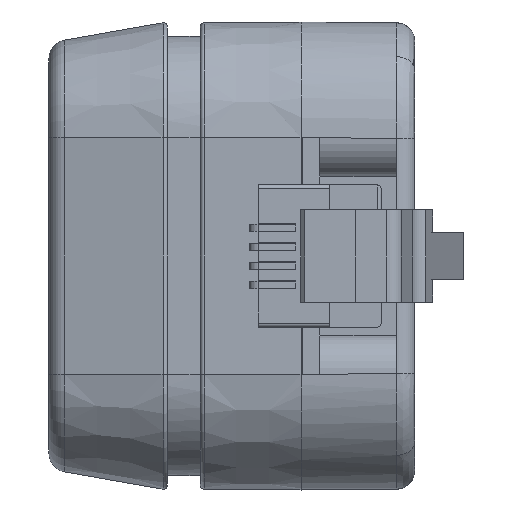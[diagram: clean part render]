
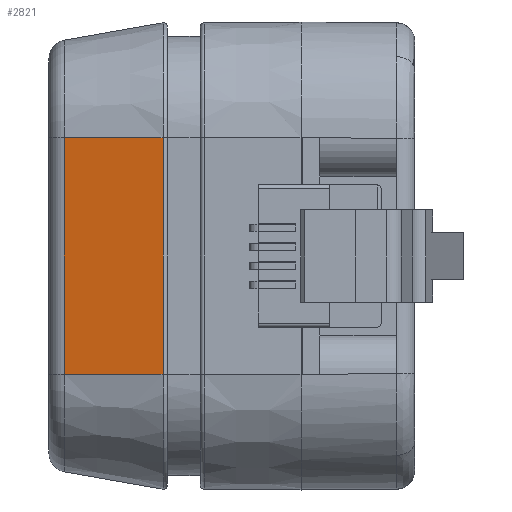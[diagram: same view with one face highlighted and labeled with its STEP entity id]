
A CAD part, left-side view. The second image highlights one B-rep face of the part: STEP entity #2821.
In plain terms, the highlighted planar face has unit normal (-0.985, 0.174, 0).
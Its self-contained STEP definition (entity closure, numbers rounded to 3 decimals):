
#254 = ORIENTED_EDGE ( 'NONE', *, *, #12132, .T. ) ;
#933 = EDGE_LOOP ( 'NONE', ( #4797, #22571, #15915, #254 ) ) ;
#2372 = PLANE ( 'NONE',  #8732 ) ;
#2821 = ADVANCED_FACE ( 'NONE', ( #10599 ), #2372, .T. ) ;
#4236 = LINE ( 'NONE', #11944, #13261 ) ;
#4326 = DIRECTION ( 'NONE',  ( 0., 0., 1. ) ) ;
#4797 = ORIENTED_EDGE ( 'NONE', *, *, #16267, .T. ) ;
#4972 = VECTOR ( 'NONE', #17935, 1000. ) ;
#4974 = LINE ( 'NONE', #12494, #4972 ) ;
#6476 = DIRECTION ( 'NONE',  ( -0.174, -0.985, 0. ) ) ;
#7564 = VECTOR ( 'NONE', #4326, 1000. ) ;
#8088 = VERTEX_POINT ( 'NONE', #21189 ) ;
#8732 = AXIS2_PLACEMENT_3D ( 'NONE', #20294, #20799, #12633 ) ;
#10599 = FACE_OUTER_BOUND ( 'NONE', #933, .T. ) ;
#11501 = CARTESIAN_POINT ( 'NONE',  ( -12.509, 7.401, 6.35 ) ) ;
#11944 = CARTESIAN_POINT ( 'NONE',  ( -12.55, 7.166, -6.35 ) ) ;
#12132 = EDGE_CURVE ( 'NONE', #8088, #25436, #4974, .T. ) ;
#12387 = VERTEX_POINT ( 'NONE', #22740 ) ;
#12494 = CARTESIAN_POINT ( 'NONE',  ( -11.576, 12.69, -6.35 ) ) ;
#12540 = LINE ( 'NONE', #20218, #7564 ) ;
#12633 = DIRECTION ( 'NONE',  ( -0.174, -0.985, 0. ) ) ;
#13261 = VECTOR ( 'NONE', #6476, 1000. ) ;
#15915 = ORIENTED_EDGE ( 'NONE', *, *, #29818, .F. ) ;
#16189 = CARTESIAN_POINT ( 'NONE',  ( -11.576, 12.69, -6.35 ) ) ;
#16258 = LINE ( 'NONE', #31559, #30987 ) ;
#16267 = EDGE_CURVE ( 'NONE', #25436, #12387, #4236, .T. ) ;
#17111 = VERTEX_POINT ( 'NONE', #11501 ) ;
#17935 = DIRECTION ( 'NONE',  ( 0., 0., -1. ) ) ;
#20218 = CARTESIAN_POINT ( 'NONE',  ( -12.509, 7.401, -6.35 ) ) ;
#20294 = CARTESIAN_POINT ( 'NONE',  ( -12.55, 7.166, -6.35 ) ) ;
#20799 = DIRECTION ( 'NONE',  ( -0.985, 0.174, 0. ) ) ;
#21189 = CARTESIAN_POINT ( 'NONE',  ( -11.576, 12.69, 6.35 ) ) ;
#22571 = ORIENTED_EDGE ( 'NONE', *, *, #25235, .T. ) ;
#22740 = CARTESIAN_POINT ( 'NONE',  ( -12.509, 7.401, -6.35 ) ) ;
#25235 = EDGE_CURVE ( 'NONE', #12387, #17111, #12540, .T. ) ;
#25436 = VERTEX_POINT ( 'NONE', #16189 ) ;
#26153 = DIRECTION ( 'NONE',  ( -0.174, -0.985, 0. ) ) ;
#29818 = EDGE_CURVE ( 'NONE', #8088, #17111, #16258, .T. ) ;
#30987 = VECTOR ( 'NONE', #26153, 1000. ) ;
#31559 = CARTESIAN_POINT ( 'NONE',  ( -12.55, 7.166, 6.35 ) ) ;
